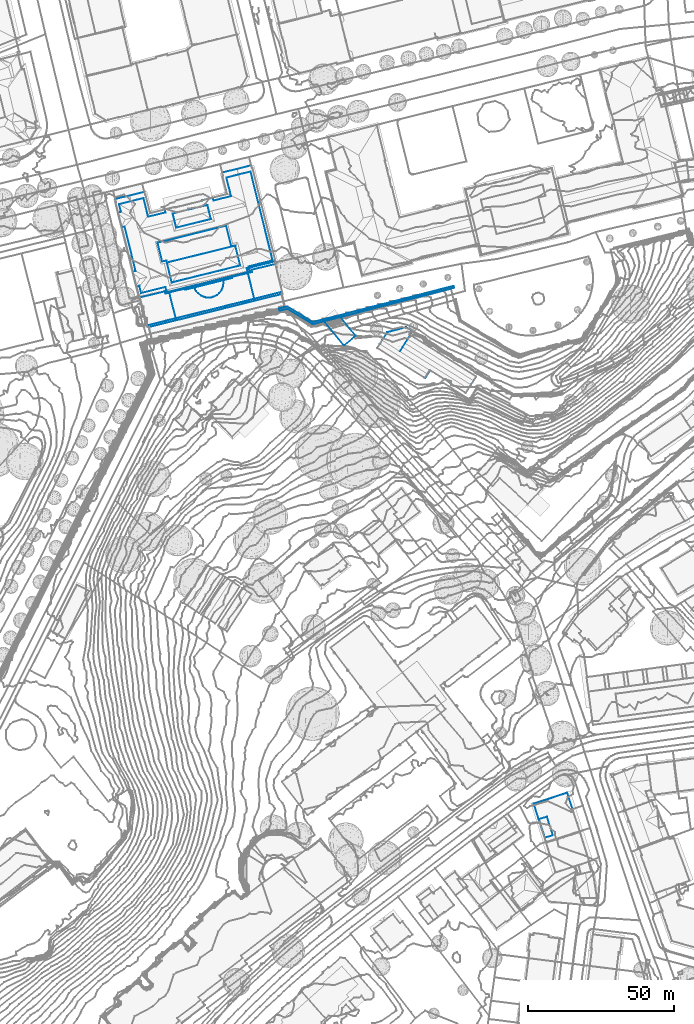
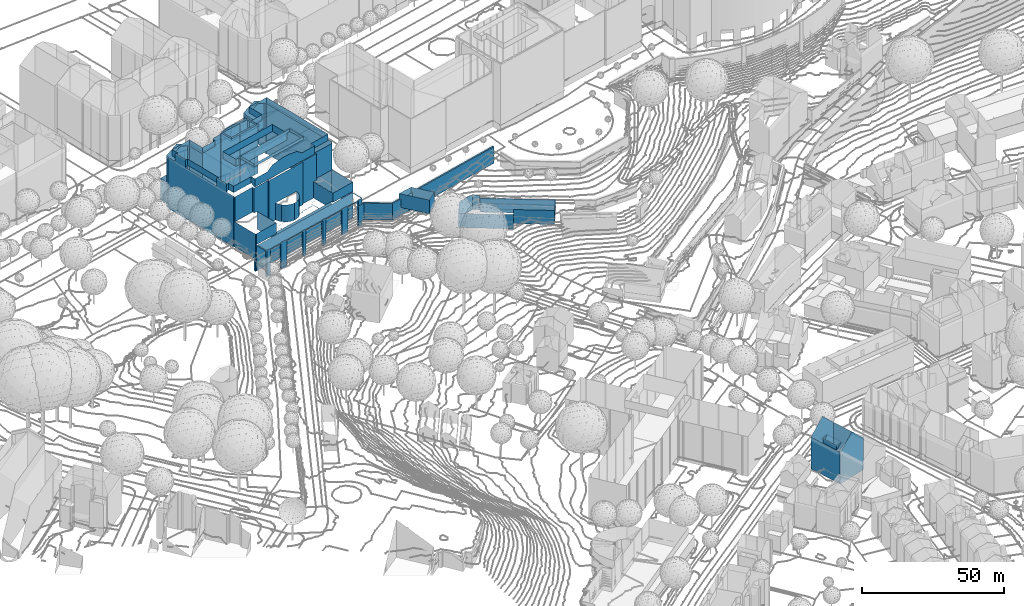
# Not in any storey, part 46 of 477: 5 walls.
"""IFC4 building model written with IfcOpenShell, lengths in metres."""

from ifc_helpers import new_model, si_unit, frame, origin_with_axes, place, context, subcontext, project, spatial, polygons, element, save


model = new_model("IFC4")

# Units and contexts
model_context = context("Model", 3, precision=1e-05, world=origin_with_axes())
body_context = subcontext(model_context, "Body", "Model", "MODEL_VIEW")
ifc_project = project(units=[si_unit("AREAUNIT", "SQUARE_METRE"), si_unit("LENGTHUNIT", "METRE")], contexts=[model_context])

# Sites, building
site_1_placement = place(None, origin_with_axes())
site_1 = spatial("IfcSite", under=ifc_project, at=site_1_placement, Name="Topoexport Site")
site_2_placement = place(site_1_placement, origin_with_axes())
site_2 = spatial("IfcSite", under=site_1, at=site_2_placement, Name="TPX_BUILDINGS")
building_1_placement = place(site_2_placement, frame((211.8297320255, 101.9383160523, 526.7541), z_axis=(0.0, 0.0, 1.0), x_axis=(1.0, 0.0, 0.0)))
building_1 = spatial("IfcBuilding", under=site_2, at=building_1_placement, Name="Building 18", CompositionType="ELEMENT")

# Wall
wall_1_placement = place(None, frame((211.8297320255, 101.9383160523, 526.7541), z_axis=(0.0, 0.0, 1.0), x_axis=(1.0, 0.0, 0.0)))
element("IfcWall", 1, at=wall_1_placement, inside=building_1, Name="Wall 14", context=body_context, shape_type="Tessellation", body=[
    polygons([(205.7030000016, 230.2597999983, 6.3935), (205.8740000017, 229.5947000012, 13.5498), (205.7030000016, 230.2597999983, 13.5498), (169.6170000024, 220.9891999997, 6.3936), (169.6170000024, 220.9891999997, 13.5499), (157.4409999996, 217.8623000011, 6.3936), (157.4409999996, 217.8623000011, 13.5499), (148.6390000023, 223.2098999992, 6.3936), (148.6390000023, 223.2098999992, 13.5499), (148.7010000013, 222.3691000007, 6.3936), (146.1469999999, 221.753899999, 13.5499), (148.7010000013, 222.3691000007, 13.5499), (157.3320000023, 217.1259999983, 6.3936), (157.3320000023, 217.1259999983, 13.5499), (205.8740000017, 229.5947000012, 6.3935), (145.9510000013, 222.5439000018, 6.3936), (146.1469999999, 221.753899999, 6.3936), (147.700000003, 222.9774999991, 6.3936), (145.9510000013, 222.5439000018, 13.5499), (147.700000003, 222.9774999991, 13.5499)], [[[3, 2, 1]], [[5, 3, 4]], [[7, 5, 6]], [[9, 7, 8]], [[12, 11, 10]], [[14, 12, 13]], [[2, 14, 15]], [[17, 11, 16]], [[8, 18, 9]], [[19, 18, 16]], [[18, 19, 20]], [[2, 15, 1]], [[3, 1, 4]], [[5, 4, 6]], [[7, 6, 8]], [[11, 17, 10]], [[12, 10, 13]], [[14, 13, 15]], [[11, 19, 16]], [[18, 20, 9]]]),
])

# Building
building_2_placement = place(site_2_placement, frame((444.9497320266, 154.9236160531, 498.9646), z_axis=(0.0, 0.0, 1.0), x_axis=(1.0, 0.0, 0.0)))
building_2 = spatial("IfcBuilding", under=site_2, at=building_2_placement, Name="Building 70", CompositionType="ELEMENT")

# Wall
wall_2_placement = place(None, frame((444.9497320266, 154.9236160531, 498.9646), z_axis=(0.0, 0.0, 1.0), x_axis=(1.0, 0.0, 0.0)))
element("IfcWall", 2, at=wall_2_placement, inside=building_2, Name="Wall 0", context=body_context, shape_type="Tessellation", body=[
    polygons([(3.8170000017, -11.6053999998, 15.6915), (1.8170000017, -5.2655999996, 13.7497), (1.8170000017, -5.2655999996, 15.6915), (3.8170000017, -11.6053999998, 0.0), (3.8170000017, -11.6053999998, -0.083), (1.8170000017, -5.2655999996, 0.0), (1.8170000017, -5.2655999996, -0.083), (4.5199999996, -4.4131000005, -0.083), (6.5199999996, -10.753899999, 0.0), (4.5199999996, -4.4131000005, 0.0), (0.0, 0.0, 0.0), (0.0, 0.0, 13.6487), (4.2390000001, -13.3515000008, 0.0), (4.2390000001, -13.3515000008, 13.6667), (11.4510000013, 3.7851999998, 0.0), (15.7390000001, -9.4306000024, 13.6967), (11.4510000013, 3.7851999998, 13.7747), (15.7390000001, -9.4306000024, 0.0), (15.824000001, -9.6992000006, 0.0), (15.824000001, -9.6992000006, 13.6957), (0.4070000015, 0.1338, 13.9397), (0.4070000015, 0.1338, 0.0), (5.813000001, 1.9208999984, 0.0), (11.2199999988, 3.7080000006, 13.9397), (5.813000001, 1.9208999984, 19.4592), (11.2199999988, 3.7080000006, 0.0), (2.0839999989, -5.1816000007, 13.9397), (4.1539999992, -4.5293000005, 16.0445), (6.5199999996, -10.753899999, -0.083), (3.8170000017, -11.6053999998, 13.7497), (6.1539999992, -10.8691000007, 16.0445), (4.0839999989, -11.5214999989, 13.9397), (10.0920000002, -11.5058000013, 19.4192), (15.4829999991, -9.8066000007, 13.9397), (4.6229999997, -13.2303999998, 13.9397), (15.4829999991, -9.8066000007, 0.0), (10.0920000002, -11.5058000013, 0.0), (10.0529999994, -11.5175000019, 19.4592), (4.6229999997, -13.2303999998, 0.0), (10.0529999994, -11.5175000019, 0.0)], [[[3, 2, 1]], [[6, 5, 4]], [[5, 6, 7]], [[10, 9, 8]], [[13, 12, 11]], [[12, 13, 14]], [[17, 16, 15]], [[15, 16, 18]], [[18, 20, 19]], [[20, 18, 16]], [[15, 12, 21]], [[12, 22, 11]], [[23, 22, 12]], [[21, 25, 24]], [[17, 15, 21]], [[26, 23, 12]], [[12, 15, 26]], [[24, 17, 21]], [[10, 8, 7]], [[10, 7, 6]], [[2, 3, 27]], [[27, 3, 28]], [[4, 29, 9]], [[29, 4, 5]], [[32, 31, 30]], [[1, 30, 31]], [[35, 34, 33]], [[13, 20, 34]], [[20, 36, 19]], [[37, 36, 20]], [[33, 38, 35]], [[14, 13, 34]], [[13, 39, 20]], [[37, 20, 40]], [[40, 20, 39]], [[14, 34, 35]], [[30, 1, 2]], [[9, 29, 8]]]),
])

# Building
building_3_placement = place(site_2_placement, frame((300.9637320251, 364.7801160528, 537.8963), z_axis=(0.0, 0.0, 1.0), x_axis=(1.0, 0.0, 0.0)))
building_3 = spatial("IfcBuilding", under=site_2, at=building_3_placement, Name="Building 118", CompositionType="ELEMENT")

# Wall
wall_3_placement = place(None, frame((300.9637320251, 364.7801160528, 537.8963), z_axis=(0.0, 0.0, 1.0), x_axis=(1.0, 0.0, 0.0)))
element("IfcWall", 3, at=wall_3_placement, inside=building_3, Name="Wall 0", context=body_context, shape_type="Tessellation", body=[
    polygons([(58.8509999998, -40.4404000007, -6.4715), (58.0329999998, -40.7666000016, 4.9125), (58.8509999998, -40.4404000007, 4.9125), (57.6660000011, -35.4618999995, 4.4505), (58.7060000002, -39.8291000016, 4.4505), (57.6660000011, -35.4618999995, 4.9125), (58.7060000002, -39.8291000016, -6.4715), (58.0490000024, -35.3662, 4.4505), (58.0490000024, -35.3662, 4.9125), (21.4079999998, -43.6601999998, 1.8858), (48.307, -36.9941999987, 4.9125), (21.4079999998, -43.6601999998, 4.9125), (56.9960000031, -41.0205000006, 4.4505), (52.1220000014, -42.2118999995, 4.4505), (49.2690000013, -42.9101999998, 4.4505), (58.0329999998, -40.7666000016, -6.4715), (41.501000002, -44.8115000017, 4.4505), (40.131000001, -45.1464999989, 4.4505), (40.131000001, -45.1464999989, -6.4714), (52.1220000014, -42.2118999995, -6.4715), (32.188000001, -47.0899000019, 4.4505), (56.9960000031, -41.0205000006, -6.4715), (41.501000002, -44.8115000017, -6.4714), (49.2690000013, -42.9101999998, -6.4715), (22.9970000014, -49.3379000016, 4.4505), (13.4780000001, -51.6669999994, 4.9125), (30.7829999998, -47.433600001, 4.4505), (32.188000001, -47.0899000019, -6.4714), (15.3530000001, -51.2080000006, 4.4505), (20.2660000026, -50.0069000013, 4.4505), (13.4780000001, -51.6669999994, -6.4714), (20.2660000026, -50.0067999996, -6.4714), (30.7829999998, -47.433600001, -6.4714), (15.3530000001, -51.2080000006, -6.4714), (22.9970000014, -49.3379000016, -6.4714), (21.5789999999, -44.3506000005, 4.9125), (12.2490000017, -46.6621000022, 4.9125), (21.5789999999, -44.3506000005, 9.588), (19.2240000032, -34.8456999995, 1.8858), (19.2240000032, -34.8456999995, 9.5881), (37.6650000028, -30.6640999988, -1.2769), (37.7380000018, -31.495099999, -1.1589), (37.6650000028, -30.6640999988, -1.1589), (27.9980000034, -33.6552999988, -1.2769), (27.7990000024, -33.1084000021, -1.1589), (27.9980000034, -33.6552999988, -1.1589), (28.443, -34.4268000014, -1.2769), (28.443, -34.4268000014, -1.1589), (29.0160000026, -35.1084000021, -1.2769), (29.0160000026, -35.1084000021, -1.1589), (30.074000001, -35.9199000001, 1.8858), (29.0160000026, -35.1084000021, 9.1841), (30.074000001, -35.9199000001, 9.1841), (30.881000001, -36.2978999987, -1.2769), (30.074000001, -35.9199000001, -1.1589), (30.881000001, -36.2978999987, -1.1589), (31.7410000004, -36.5274000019, -1.2769), (31.7410000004, -36.5274000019, -1.1589), (32.6290000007, -36.6055000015, -1.2769), (32.6290000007, -36.6055000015, -1.1589), (33.5160000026, -36.5274000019, -1.2769), (33.5160000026, -36.5274000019, -1.1589), (34.376000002, -36.2978999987, -1.2769), (34.376000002, -36.2978999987, -1.1589), (35.5590000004, -35.6816000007, -1.2769), (35.5590000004, -35.6816000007, -1.1589), (36.2420000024, -35.1084000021, -1.2769), (36.2420000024, -35.1084000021, -1.1589), (37.0540000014, -34.0507999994, 1.8858), (36.2420000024, -35.1084000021, 9.1841), (37.0540000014, -34.0507999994, 9.1841), (37.4299999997, -33.2432000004, -1.2769), (37.0540000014, -34.0507999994, -1.1589), (37.4299999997, -33.2432000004, -1.1589), (37.6600000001, -32.3828000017, -1.2769), (37.6600000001, -32.3828000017, -1.1589), (37.7380000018, -31.495099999, -1.2769), (37.6650000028, -30.6640999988, 1.8858), (37.7380000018, -31.495099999, 9.1841), (37.6650000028, -30.6640999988, 9.1841), (27.9980000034, -33.6552999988, 1.8858), (27.7990000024, -33.1084000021, 9.1841), (27.9980000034, -33.6552999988, 9.1841), (28.443, -34.4268000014, 1.8858), (28.443, -34.4268000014, 9.1841), (29.0160000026, -35.1084000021, 1.8858), (30.074000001, -35.9199000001, -1.2769), (30.881000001, -36.2978999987, 1.8858), (30.881000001, -36.2978999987, 9.1841), (31.7410000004, -36.5274000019, 1.8858), (31.7410000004, -36.5274000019, 9.1841), (32.6290000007, -36.6055000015, 1.8858), (32.6290000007, -36.6055000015, 9.1841), (33.5160000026, -36.5274000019, 1.8858), (33.5160000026, -36.5274000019, 9.1841), (34.376000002, -36.2978999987, 1.8858), (34.376000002, -36.2978999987, 9.1841), (35.5590000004, -35.6816000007, 1.8858), (35.5590000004, -35.6816000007, 9.1841), (36.2420000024, -35.1084000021, 1.8858), (37.0540000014, -34.0507999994, -1.2769), (37.4299999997, -33.2432000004, 1.8858), (37.4299999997, -33.2432000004, 9.1841), (37.6600000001, -32.3828000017, 1.8858), (37.6600000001, -32.3828000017, 9.1841), (37.7380000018, -31.495099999, 1.8858), (19.2240000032, -34.8456999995, -1.2229), (21.4079999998, -43.6601999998, -1.1589), (19.2240000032, -34.8456999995, -1.1589), (0.7870000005, -3.8740000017, 15.0906), (0.9510000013, -3.8330000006, 20.687), (0.7870000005, -3.8740000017, 20.5981), (0.7870000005, -3.8740000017, -1.3418), (0.9510000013, -3.8330000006, -1.3418), (10.9240000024, -1.3925999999, 20.76), (10.9240000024, -1.3925999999, -1.3419), (11.0780000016, -1.3526000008, 9.6301), (37.4010000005, 5.1552999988, 9.6121), (37.5710000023, 5.1942999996, 12.4598), (37.4010000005, 5.1552000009, 20.654), (37.5710000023, 5.1942999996, -1.3419), (47.6920000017, 7.7285000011, 20.687), (47.5240000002, 7.6875, 20.775), (47.5240000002, 7.6873999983, -1.3419), (47.6921000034, 7.7285000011, 15.1575), (47.6920000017, 7.7285000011, 9.6281), (47.6920000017, 7.7285000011, -1.3419), (47.6920000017, 7.7285000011, 4.0996), (55.6980000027, -24.5331999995, 20.588), (55.6980000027, -24.5331999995, 15.1045), (55.4079999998, -24.6026000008, 20.589), (55.6980000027, -24.5331999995, -1.3419), (55.6980000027, -24.5331999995, 9.622), (55.4079999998, -24.6026000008, -1.3419), (8.814000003, -36.1044999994, 20.616), (9.0480000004, -36.0498000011, 20.614), (9.0480000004, -36.0459000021, 9.5881), (8.814000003, -36.1044999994, -1.3419), (9.0480000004, -36.0459000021, -1.2229), (9.0480000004, -36.0498000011, -1.3419), (55.5190000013, -25.0557000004, 8.9001), (47.3420000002, -27.0811000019, 8.9001), (55.5190000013, -25.0557000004, 20.327), (47.5280000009, -27.8320000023, 20.327), (47.3420000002, -27.0811000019, 20.327), (45.7240000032, -26.5703000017, -1.4109), (55.3100000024, -24.2030999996, -1.3419), (45.7240000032, -26.5703000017, -1.3419), (36.6130000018, 9.0566000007, 0.7599), (46.5520000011, 11.5449000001, 9.4711), (36.6130000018, 9.0566000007, 9.4711), (34.0950000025, -2.371100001, 20.833), (34.3390000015, -3.3535000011, 21.4279), (34.0950000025, -2.371100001, 23.8777), (17.9100000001, -7.4237999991, 21.428), (17.6640000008, -6.432599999, 23.8777), (17.9100000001, -7.4237999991, 23.8777), (11.9610000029, -8.8984999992, 21.429), (11.9610000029, -8.8984000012, 23.8777), (0.0, 0.0, 0.0), (9.9670000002, 2.4765000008, 9.4711), (0.0, 0.0, 9.4711), (48.307, -36.9941999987, -1.159), (21.4079999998, -43.6601999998, -1.2229), (11.568, -46.0986000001, -1.2229), (11.568, -46.0986000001, -6.4714), (48.307, -36.9941999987, -1.4109), (57.8670000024, -34.625, -6.4714), (57.8670000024, -34.625, -1.4109), (17.6770000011, -34.4316999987, -1.3419), (9.1720000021, -36.5390999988, -1.2229), (17.6770000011, -34.4316999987, -1.2229), (17.6770000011, -34.4316999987, 9.5881), (9.1720000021, -36.5390999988, 9.5881), (17.6770000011, -34.4316999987, 20.327), (17.8630000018, -35.182599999, -1.3419), (17.8630000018, -35.182599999, -1.2229), (17.8630000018, -35.182599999, 9.5881), (17.8630000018, -35.182599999, 20.327), (24.5450000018, -33.5263999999, 1.8858), (24.5450000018, -33.5263999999, 20.327), (24.5450000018, -33.5263999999, -1.1589), (24.5450000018, -33.5263999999, -1.3419), (24.6359999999, -33.8925999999, 1.8858), (24.6359999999, -33.8925999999, 20.327), (24.6359999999, -33.8925999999, -1.3419), (24.6359999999, -33.8925999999, -1.1589), (40.7200000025, -29.9072000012, -1.1589), (40.7200000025, -29.9072000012, -1.3419), (27.7990000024, -33.1084000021, -1.2769), (40.7200000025, -29.9072000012, 1.8858), (40.7200000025, -29.9072000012, 20.327), (27.7990000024, -33.1084000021, 1.8858), (40.6290000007, -29.5410000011, 1.8858), (40.6290000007, -29.5410000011, 20.327), (40.6290000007, -29.5410000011, -1.3419), (40.6290000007, -29.5410000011, -1.1589), (47.5280000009, -27.8320000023, 8.9001), (46.1230000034, -28.1807000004, 8.9001), (46.1230000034, -28.1807000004, 1.8858), (46.1230000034, -28.1807000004, -1.3419), (46.1230000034, -28.1807000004, -1.1589), (58.0370000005, -35.317400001, 4.9125), (48.4780000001, -37.6865000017, 8.9001), (58.0370000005, -35.317400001, 8.9001), (48.4780000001, -37.6865000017, 4.9125), (48.307, -36.9941999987, 1.8858), (12.2380000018, -46.6172000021, -6.4714), (11.7280000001, -46.7373000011, 9.588), (12.2380000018, -46.6172000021, 9.588), (13.3270000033, -51.072300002, 4.4505), (12.2490000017, -46.6631000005, 4.4505), (13.3320000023, -51.0713, -6.4714), (12.2490000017, -46.6621000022, 9.588), (12.2490000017, -46.6631000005, -6.4714), (8.1330000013, -33.3682000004, 20.617), (6.7240000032, -27.7089999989, 20.613), (7.9890000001, -32.7899999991, 20.616), (2.943, -12.5283000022, 20.603), (1.6770000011, -7.4483000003, 20.6001), (5.6190000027, -1.6376999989, -1.3418), (0.7080000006, -2.8544999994, 0.0), (0.7080000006, -2.8544999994, -1.3418), (5.6190000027, -1.6376999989, 0.0), (10.6750000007, -0.3858000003, -1.3418), (10.6750000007, -0.3858000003, 0.0), (11.0780000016, -1.3526000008, -1.3419), (12.5890000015, -7.4287, -1.3419), (12.6469999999, -7.6621000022, -1.3419), (12.5890000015, -7.4287, 20.678), (11.0780000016, -1.3526000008, 20.68), (12.6469999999, -7.6621000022, 20.82), (38.8990000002, -0.870099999, 20.656), (38.9700000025, -1.1581999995, 20.83), (38.9700000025, -1.1581999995, -1.3419), (38.8990000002, -0.870099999, -1.3419), (37.4010000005, 5.1552999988, -1.3419), (21.2770000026, -5.5459000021, 24.9056), (21.2770000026, -5.5459000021, -1.3419), (21.318, -5.7001999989, -1.3419), (21.318, -5.7001999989, 24.9086), (0.7080000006, -2.8544999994, 9.4711), (5.6190000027, -1.6376999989, 23.3528), (0.7080000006, -2.8544999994, 20.686), (10.6750000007, -0.3858000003, 20.759), (5.6190000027, -1.6376999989, 9.4711), (10.6750000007, -0.3858000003, 9.4711), (42.375, 7.4697000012, 9.4711), (37.318, 6.2168000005, 20.741), (37.318, 6.2168000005, 9.4711), (47.2730000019, 8.683600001, 9.4711), (47.2730000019, 8.683600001, 20.778), (42.375, 7.4697000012, 23.3528), (46.5520000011, 11.5449000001, 0.7599), (47.2730000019, 8.683600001, 0.7599), (47.2730000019, 8.683600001, -1.3419), (55.6579999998, -24.371100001, 20.681), (37.5710000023, 5.1942999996, 20.741), (37.318, 6.2168000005, 0.7599), (37.318, 6.2168000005, -1.3419), (42.375, 7.4697000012, -1.3419), (42.375, 7.4697000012, 0.7599), (30.4520000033, -3.2774000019, 24.3967), (33.7430000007, -2.4589999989, 24.3917), (30.3568000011, -3.3018000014, -1.3419), (30.3570000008, -3.3018000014, 24.4837), (30.3940000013, -3.4512000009, -1.3419), (30.3740000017, -3.371100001, 24.4847), (30.3940000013, -3.4512000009, 24.5826), (17.6640000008, -6.432599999, 20.827), (20.7160000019, -5.6845999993, 24.3887), (18.0100000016, -6.3476999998, 24.3817), (24.2210000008, -4.9814999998, 25.8795), (21.7900000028, -5.5830000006, 25.3436), (25.626000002, -4.6338, 25.9505), (29.4630000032, -3.682599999, 25.3436), (27.0300000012, -4.2851999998, 25.8795), (30.2870000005, -3.4785000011, 24.5836), (9.9670000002, 2.4765000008, 0.0), (55.3100000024, -24.2030999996, -1.4109), (58.0370000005, -35.316399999, -6.4714), (58.0370000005, -35.316399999, 4.4505), (11.7280000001, -46.7373000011, -6.4714), (9.1710000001, -36.5390999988, -1.3419), (9.1710000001, -36.5390999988, 20.327), (32.2520000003, -4.8564999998, 26.4105), (29.2829999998, -5.5927999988, 27.1324), (24.444000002, -6.7910000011, 27.1334), (20.375, -7.7998000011, 26.4105), (20.375, -7.7998000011, 27.1334), (32.2520000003, -4.8564999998, 27.1324), (33.449000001, -9.6865000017, 26.4105), (30.4790000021, -10.4228999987, 27.1394), (33.449000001, -9.6865000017, 27.1394), (21.5710000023, -12.628899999, 26.4105), (21.5710000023, -12.628899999, 27.1394), (33.4350000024, -9.6317999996, 27.1724), (18.3770000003, -24.5976999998, 26.4105), (18.3850000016, -24.6317999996, 27.5583), (20.0600000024, -31.3905999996, 27.6293), (20.0600000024, -31.3905999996, 26.4104), (18.3770000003, -24.5976999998, 27.5383), (2.8500000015, -12.1533000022, 24.1817), (2.943, -12.5283000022, 23.8777), (1.7910000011, -7.9052999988, 24.1767), (1.6770000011, -7.4483000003, 23.8777), (7.8890000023, -32.3887000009, 24.2037), (7.9890000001, -32.7899999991, 23.8777), (6.7240000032, -27.7089999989, 23.8777), (6.8470000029, -28.2021999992, 24.1997), (32.268000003, -4.9228999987, 27.1734), (21.557, -12.5742000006, 27.1734), (20.3920000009, -7.8662, 27.1734), (41.8160000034, -18.8251999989, 27.5583), (41.8080000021, -18.7919999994, 26.4104), (43.4910000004, -25.5850000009, 27.6293), (43.4910000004, -25.5850000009, 26.4104), (41.8080000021, -18.7919999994, 27.5383), (43.432, -25.6006000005, 27.6663), (20.120000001, -31.375, 27.6663), (18.2520000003, -34.2881000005, 20.327), (18.3710000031, -34.7675999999, 23.8777), (18.3710000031, -34.7675999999, 20.327), (17.9210000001, -32.9501999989, 21.112), (17.9210000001, -32.9501999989, 23.8777), (9.5610000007, -35.0214999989, 21.112), (18.2440000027, -23.875, 23.3527), (18.4200000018, -24.5859999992, 26.4105), (18.2440000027, -23.875, 26.4105), (40.3460000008, -1.8652999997, 21.4289), (34.3390000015, -3.3535000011, 23.8777), (38.7640000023, 4.5194999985, 23.8777), (40.3460000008, -1.8652999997, 23.8777), (40.2690000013, -1.5547000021, 21.24), (38.7640000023, 4.5194999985, 21.24), (42.8550000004, 5.5331999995, 23.3528), (47.0410000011, 6.5702999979, 21.152), (47.0410000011, 6.5702999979, 23.8777), (54.5620000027, -23.7813000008, 21.1509), (54.5830000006, -23.8652999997, 23.8777), (54.5700000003, -23.8145000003, 21.1399), (54.5830000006, -23.8652999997, 21.1119), (46.3060000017, -25.9160000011, 23.8777), (46.756000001, -27.7334000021, 23.8777), (46.3060000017, -25.9160000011, 21.1119), (46.756000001, -27.7334000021, 20.327), (46.6380000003, -27.2558999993, 20.327), (2.6680000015, -7.2021999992, 21.138), (2.0190000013, -4.5850000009, 23.8777), (2.6680000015, -7.2021999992, 23.8777), (7.6900000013, -27.4706999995, 21.138), (3.9270000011, -12.2842000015, 23.8777), (7.6900000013, -27.4706999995, 23.8777), (9.5549999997, -34.996100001, 21.126), (9.5609000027, -35.0214999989, 23.8777), (9.5480000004, -34.9688000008, 21.136), (8.949000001, -32.5527000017, 21.138), (8.949000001, -32.5527000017, 23.8777), (10.3790000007, -2.5146999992, 21.157), (10.3790000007, -2.5146999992, 23.8777), (11.8500000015, -8.4512000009, 21.157), (6.0990000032, -3.5742000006, 23.3528), (2.0190000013, -4.5850000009, 21.138), (3.9270000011, -12.2842000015, 21.138), (16.7770000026, -24.2382999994, 23.3527), (16.7770000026, -24.2382999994, 26.4105), (15.1810000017, -17.8007999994, 23.3528), (15.1810000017, -17.8007999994, 26.4105), (38.6730000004, -11.9785000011, 23.3527), (38.6730000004, -11.9785000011, 26.4105), (40.4450000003, -19.1308999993, 23.3527), (40.4450000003, -19.1308999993, 26.4104), (24.2350000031, -23.1464999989, 27.5383), (18.4200000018, -24.5859999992, 23.3527), (30.0420000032, -21.7070000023, 27.5383), (38.3370000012, -29.8192999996, 25.6685), (40.7480000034, -29.2226999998, 23.8777), (26.6950000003, -32.7041000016, 25.6685), (34.6469999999, -30.7344000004, 26.3244), (30.3859999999, -31.7901000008, 26.3244), (24.2840000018, -33.3027000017, 23.8777), (32.5160000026, -31.2626999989, 26.4104), (56.8170000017, -40.2978999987, 4.4505), (56.8170000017, -40.2978999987, -6.4715), (15.2039999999, -50.6074000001, 4.4505), (15.2039999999, -50.6074000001, -6.4714), (20.1130000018, -49.3916000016, -6.4714), (22.8430000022, -48.7158000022, -6.4714), (20.1130000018, -49.3916000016, 4.4505), (22.8430000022, -48.7158000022, 4.4505), (30.6230000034, -46.7871000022, -6.4714), (32.0270000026, -46.4395000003, -6.4714), (30.6230000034, -46.7871000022, 4.4505), (32.0270000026, -46.4395000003, 4.4505), (39.9640000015, -44.4736000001, -6.4714), (41.3330000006, -44.1338, -6.4714), (39.9640000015, -44.4736000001, 4.4505), (41.3330000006, -44.1338, 4.4505), (49.0950000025, -42.2100000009, -6.4714), (51.9470000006, -41.503899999, -6.4715), (49.0950000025, -42.2100000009, 4.4505), (51.9470000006, -41.503899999, 4.4505), (24.9180000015, -11.8007999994, 27.1394)], [[[3, 2, 1]], [[6, 5, 4]], [[5, 6, 3]], [[5, 1, 7]], [[1, 5, 3]], [[9, 6, 8]], [[12, 11, 10]], [[2, 14, 13]], [[14, 2, 15]], [[2, 13, 16]], [[2, 17, 15]], [[17, 2, 18]], [[17, 18, 19]], [[20, 14, 15]], [[2, 21, 18]], [[22, 16, 13]], [[19, 23, 17]], [[20, 15, 24]], [[27, 26, 25]], [[26, 27, 21]], [[21, 27, 28]], [[30, 26, 29]], [[26, 30, 25]], [[29, 26, 31]], [[25, 30, 32]], [[21, 2, 26]], [[33, 28, 27]], [[31, 34, 29]], [[35, 25, 32]], [[38, 37, 36]], [[40, 12, 39]], [[12, 40, 38]], [[39, 12, 10]], [[36, 12, 38]], [[43, 42, 41]], [[46, 45, 44]], [[48, 46, 47]], [[50, 48, 49]], [[53, 52, 51]], [[56, 55, 54]], [[58, 56, 57]], [[60, 58, 59]], [[62, 60, 61]], [[64, 62, 63]], [[66, 64, 65]], [[68, 66, 67]], [[71, 70, 69]], [[74, 73, 72]], [[76, 74, 75]], [[42, 76, 77]], [[80, 79, 78]], [[83, 82, 81]], [[85, 83, 84]], [[52, 85, 86]], [[55, 50, 87]], [[89, 53, 88]], [[91, 89, 90]], [[93, 91, 92]], [[95, 93, 94]], [[97, 95, 96]], [[99, 97, 98]], [[70, 99, 100]], [[73, 68, 101]], [[103, 71, 102]], [[105, 103, 104]], [[79, 105, 106]], [[109, 108, 107]], [[112, 111, 110]], [[111, 114, 113]], [[117, 116, 115]], [[120, 119, 118]], [[121, 118, 119]], [[124, 123, 122]], [[125, 124, 122]], [[126, 124, 125]], [[128, 127, 124]], [[131, 130, 129]], [[133, 131, 132]], [[132, 131, 134]], [[137, 136, 135]], [[139, 137, 138]], [[139, 138, 140]], [[138, 137, 135]], [[143, 142, 141]], [[145, 144, 142]], [[148, 147, 146]], [[151, 150, 149]], [[154, 153, 152]], [[157, 156, 155]], [[159, 157, 158]], [[162, 161, 160]], [[164, 108, 163]], [[166, 165, 164]], [[164, 167, 166]], [[163, 167, 164]], [[169, 168, 167]], [[167, 168, 166]], [[172, 171, 170]], [[175, 174, 173]], [[177, 172, 176]], [[179, 175, 178]], [[181, 40, 180]], [[40, 181, 179]], [[180, 40, 39]], [[178, 40, 179]], [[183, 182, 107]], [[107, 182, 109]], [[107, 177, 176]], [[107, 176, 183]], [[185, 181, 184]], [[187, 182, 186]], [[188, 43, 41]], [[190, 189, 41]], [[41, 189, 188]], [[45, 187, 190]], [[186, 190, 187]], [[192, 80, 191]], [[80, 192, 82]], [[78, 191, 80]], [[82, 185, 184]], [[185, 82, 192]], [[184, 193, 82]], [[195, 192, 194]], [[197, 188, 196]], [[144, 199, 198]], [[199, 144, 195]], [[199, 194, 200]], [[194, 199, 195]], [[202, 197, 201]], [[205, 204, 203]], [[11, 206, 204]], [[11, 199, 200]], [[199, 11, 204]], [[11, 200, 207]], [[163, 201, 167]], [[201, 148, 146]], [[201, 146, 167]], [[210, 209, 208]], [[26, 211, 31]], [[211, 37, 212]], [[211, 213, 31]], [[214, 210, 37]], [[212, 208, 215]], [[37, 210, 212]], [[212, 210, 208]], [[135, 216, 138]], [[138, 218, 217]], [[218, 138, 216]], [[138, 217, 219]], [[110, 219, 220]], [[110, 220, 112]], [[113, 219, 110]], [[219, 113, 138]], [[223, 222, 221]], [[221, 222, 224]], [[224, 226, 225]], [[224, 225, 221]], [[228, 227, 117]], [[117, 229, 228]], [[231, 230, 229]], [[231, 229, 117]], [[229, 230, 232]], [[233, 120, 118]], [[233, 235, 234]], [[118, 237, 236]], [[236, 235, 118]], [[118, 235, 233]], [[240, 239, 238]], [[238, 241, 240]], [[244, 243, 242]], [[242, 243, 245]], [[245, 247, 246]], [[245, 246, 242]], [[250, 249, 248]], [[248, 249, 251]], [[251, 253, 252]], [[253, 251, 249]], [[251, 252, 123]], [[251, 254, 150]], [[254, 251, 255]], [[251, 124, 255]], [[124, 251, 123]], [[255, 124, 256]], [[125, 122, 257]], [[128, 132, 127]], [[133, 128, 126]], [[125, 130, 126]], [[257, 129, 130]], [[130, 133, 126]], [[132, 128, 133]], [[125, 257, 130]], [[119, 258, 249]], [[121, 119, 250]], [[249, 250, 119]], [[149, 259, 151]], [[260, 121, 259]], [[259, 121, 250]], [[260, 259, 261]], [[261, 259, 262]], [[262, 255, 256]], [[262, 256, 261]], [[264, 154, 263]], [[266, 263, 265]], [[154, 152, 263]], [[152, 234, 235]], [[265, 263, 235]], [[235, 263, 152]], [[269, 268, 267]], [[266, 265, 267]], [[266, 267, 268]], [[232, 270, 229]], [[239, 229, 270]], [[270, 238, 239]], [[156, 272, 271]], [[271, 238, 270]], [[156, 271, 270]], [[240, 273, 267]], [[240, 241, 274]], [[240, 274, 273]], [[273, 275, 267]], [[277, 276, 267]], [[267, 278, 269]], [[278, 267, 276]], [[277, 267, 275]], [[242, 114, 111]], [[242, 111, 244]], [[242, 162, 222]], [[160, 222, 162]], [[223, 114, 222]], [[222, 114, 242]], [[161, 247, 226]], [[226, 279, 161]], [[116, 225, 226]], [[226, 247, 116]], [[245, 115, 116]], [[245, 116, 247]], [[134, 131, 141]], [[134, 280, 147]], [[280, 134, 169]], [[141, 205, 203]], [[141, 131, 143]], [[203, 9, 8]], [[141, 203, 169]], [[168, 169, 281]], [[281, 169, 282]], [[8, 282, 203]], [[169, 203, 282]], [[169, 134, 141]], [[283, 209, 165]], [[165, 209, 171]], [[283, 165, 166]], [[284, 171, 140]], [[209, 174, 171]], [[137, 174, 285]], [[137, 285, 136]], [[139, 140, 171]], [[139, 174, 137]], [[139, 171, 174]], [[288, 287, 286]], [[290, 288, 289]], [[286, 289, 288]], [[287, 291, 286]], [[294, 293, 292]], [[296, 295, 292]], [[297, 294, 292]], [[300, 299, 298]], [[301, 300, 298]], [[299, 302, 298]], [[219, 304, 303]], [[219, 303, 305]], [[220, 305, 306]], [[305, 220, 219]], [[308, 307, 218]], [[218, 307, 217]], [[310, 309, 217]], [[310, 217, 307]], [[286, 291, 311]], [[297, 292, 311]], [[311, 292, 286]], [[295, 296, 312]], [[312, 313, 295]], [[289, 313, 290]], [[313, 289, 295]], [[316, 315, 314]], [[317, 315, 316]], [[314, 315, 318]], [[316, 319, 317]], [[301, 317, 320]], [[317, 319, 320]], [[301, 320, 300]], [[323, 322, 321]], [[322, 324, 321]], [[324, 322, 325]], [[325, 326, 324]], [[329, 328, 327]], [[331, 330, 153]], [[333, 332, 330]], [[330, 335, 334]], [[335, 332, 336]], [[336, 338, 337]], [[338, 336, 332]], [[338, 339, 337]], [[339, 338, 340]], [[340, 341, 339]], [[342, 341, 340]], [[340, 343, 342]], [[345, 343, 344]], [[347, 344, 346]], [[344, 347, 345]], [[306, 348, 220]], [[350, 349, 348]], [[353, 352, 351]], [[355, 354, 326]], [[354, 355, 356]], [[356, 358, 357]], [[358, 356, 355]], [[360, 158, 359]], [[359, 158, 361]], [[363, 349, 362]], [[362, 360, 359]], [[360, 362, 349]], [[352, 304, 364]], [[358, 308, 357]], [[309, 351, 217]], [[366, 329, 365]], [[368, 366, 367]], [[370, 368, 369]], [[372, 370, 371]], [[372, 302, 373]], [[302, 372, 328]], [[328, 298, 302]], [[374, 328, 372]], [[318, 315, 372]], [[318, 372, 375]], [[371, 374, 372]], [[378, 377, 376]], [[344, 377, 346]], [[346, 377, 323]], [[380, 376, 379]], [[380, 378, 376]], [[381, 322, 323]], [[382, 380, 379]], [[384, 383, 7]], [[215, 282, 212]], [[211, 385, 213]], [[386, 385, 34]], [[32, 30, 387]], [[387, 389, 388]], [[388, 390, 35]], [[33, 27, 391]], [[391, 393, 392]], [[392, 394, 28]], [[19, 18, 395]], [[395, 397, 396]], [[396, 398, 23]], [[24, 15, 399]], [[399, 401, 400]], [[400, 402, 20]], [[22, 13, 384]], [[2, 16, 1]], [[6, 4, 8]], [[11, 207, 10]], [[214, 37, 38]], [[42, 77, 41]], [[45, 190, 44]], [[46, 44, 47]], [[48, 47, 49]], [[52, 86, 51]], [[55, 87, 54]], [[56, 54, 57]], [[58, 57, 59]], [[60, 59, 61]], [[62, 61, 63]], [[64, 63, 65]], [[66, 65, 67]], [[70, 100, 69]], [[73, 101, 72]], [[74, 72, 75]], [[76, 75, 77]], [[79, 106, 78]], [[82, 193, 81]], [[83, 81, 84]], [[85, 84, 86]], [[50, 49, 87]], [[53, 51, 88]], [[89, 88, 90]], [[91, 90, 92]], [[93, 92, 94]], [[95, 94, 96]], [[97, 96, 98]], [[99, 98, 100]], [[68, 67, 101]], [[71, 69, 102]], [[103, 102, 104]], [[105, 104, 106]], [[108, 164, 107]], [[113, 110, 111]], [[117, 227, 116]], [[117, 115, 231]], [[237, 118, 121]], [[258, 119, 120]], [[126, 128, 124]], [[133, 130, 131]], [[145, 142, 143]], [[144, 198, 142]], [[147, 280, 146]], [[150, 254, 149]], [[331, 153, 154]], [[156, 270, 155]], [[157, 155, 158]], [[161, 279, 160]], [[171, 284, 170]], [[285, 174, 175]], [[172, 170, 176]], [[175, 173, 178]], [[181, 180, 184]], [[182, 183, 186]], [[186, 189, 190]], [[192, 191, 194]], [[188, 189, 196]], [[197, 196, 201]], [[204, 206, 203]], [[202, 201, 163]], [[209, 283, 208]], [[26, 37, 211]], [[259, 250, 151]], [[293, 403, 292]], [[292, 403, 296]], [[355, 326, 325]], [[328, 374, 327]], [[333, 330, 331]], [[332, 335, 330]], [[343, 345, 342]], [[350, 348, 306]], [[349, 363, 348]], [[352, 364, 351]], [[159, 158, 360]], [[304, 219, 364]], [[308, 218, 357]], [[353, 351, 309]], [[329, 327, 365]], [[366, 365, 367]], [[368, 367, 369]], [[370, 369, 371]], [[375, 372, 373]], [[381, 377, 378]], [[377, 381, 323]], [[383, 5, 7]], [[281, 282, 215]], [[385, 386, 213]], [[385, 29, 34]], [[30, 389, 387]], [[389, 390, 388]], [[390, 25, 35]], [[27, 393, 391]], [[393, 394, 392]], [[394, 21, 28]], [[18, 397, 395]], [[397, 398, 396]], [[398, 17, 23]], [[15, 401, 399]], [[401, 402, 400]], [[402, 14, 20]], [[13, 383, 384]]]),
])

# Building
building_4_placement = place(site_2_placement, frame((372.7347320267, 320.7049160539, 536.4583), z_axis=(0.0, 0.0, 1.0), x_axis=(1.0, 0.0, 0.0)))
building_4 = spatial("IfcBuilding", under=site_2, at=building_4_placement, Name="Building 119", CompositionType="ELEMENT")

# Wall
wall_4_placement = place(None, frame((372.7347320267, 320.7049160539, 536.4583), z_axis=(0.0, 0.0, 1.0), x_axis=(1.0, 0.0, 0.0)))
element("IfcWall", 4, at=wall_4_placement, inside=building_4, Name="Wall 0", context=body_context, shape_type="Tessellation", body=[
    polygons([(5.6700000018, 1.2665999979, 0.0), (11.254999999, -5.577200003, 5.9385), (5.6700000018, 1.2665999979, 5.9385), (0.0, 0.0, 0.0), (0.0, 0.0, 5.9385), (7.2490000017, -8.8623000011, 0.0), (7.2490000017, -8.8623000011, 5.9385), (11.254999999, -5.577200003, 0.0)], [[[3, 2, 1]], [[5, 3, 4]], [[7, 5, 6]], [[2, 7, 8]], [[2, 8, 1]], [[3, 1, 4]], [[5, 4, 6]], [[7, 6, 8]]]),
])

# Building
building_5_placement = place(site_2_placement, frame((391.3277320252, 310.9148160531, 527.1172), z_axis=(0.0, 0.0, 1.0), x_axis=(1.0, 0.0, 0.0)))
building_5 = spatial("IfcBuilding", under=site_2, at=building_5_placement, Name="Building 120", CompositionType="ELEMENT")

# Wall
wall_5_placement = place(None, frame((391.3277320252, 310.9148160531, 527.1172), z_axis=(0.0, 0.0, 1.0), x_axis=(1.0, 0.0, 0.0)))
element("IfcWall", 5, at=wall_5_placement, inside=building_5, Name="Wall 0", context=body_context, shape_type="Tessellation", body=[
    polygons([(30.3090000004, -15.3720000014, 0.0), (18.0890000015, -7.6561999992, 6.0964), (30.3090000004, -15.3720000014, 6.0964), (12.0410000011, 5.6563000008, 0.0), (11.2880000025, 4.4638999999, 6.0964), (12.0410000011, 5.6563000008, 6.0964), (9.9020000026, 7.1435999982, 0.0), (9.9020000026, 7.1435999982, 6.4904), (11.2880000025, 4.4638999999, 0.0), (33.8420000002, -9.7773000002, 6.0964), (16.3900000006, -10.3465999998, 0.0), (0.0, 0.0, 6.0964), (16.3900000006, -10.3465999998, 6.0964), (4.3859999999, 5.6865999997, 0.0), (4.3859999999, 5.6865999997, 6.6644), (3.4290000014, 5.433600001, 6.5614), (3.4290000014, 5.433600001, 0.0), (8.2710000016, 6.7128999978, 6.6644), (8.2710000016, 6.7128999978, 0.0), (8.6830000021, 0.3378999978, 6.0964), (8.6830000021, 0.3378999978, 6.9823), (7.7550000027, -1.1308000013, 6.0964), (9.5300000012, 1.6796999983, 6.0964), (32.9730000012, -11.1543000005, 0.0), (33.8420000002, -9.7773000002, 0.0), (32.0840000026, -12.5615000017, 0.0), (32.0840000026, -12.5615000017, 6.0964), (31.2369999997, -13.9023000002, 0.0), (31.2369999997, -13.9023000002, 6.9823), (32.9730000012, -11.1543000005, 6.9343), (10.4189999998, 3.0869999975, 6.0964), (10.4189999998, 3.0869999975, 6.9343), (18.0890000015, -7.6561999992, 0.0), (17.2910000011, -8.9199000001, 6.9543), (0.9010000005, 1.4267999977, 0.0), (0.9010000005, 1.4267999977, 6.9543), (0.0, 0.0, 0.0), (1.700000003, 2.6915000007, 0.0), (1.700000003, 2.6915000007, 6.0964)], [[[3, 2, 1]], [[6, 5, 4]], [[8, 6, 7]], [[5, 10, 9]], [[13, 12, 11]], [[16, 15, 14]], [[14, 17, 16]], [[15, 18, 14]], [[18, 8, 19]], [[7, 19, 8]], [[18, 19, 14]], [[22, 21, 20]], [[23, 20, 21]], [[25, 10, 24]], [[27, 26, 24]], [[27, 28, 26]], [[27, 24, 10]], [[3, 1, 28]], [[3, 27, 29]], [[28, 27, 3]], [[27, 10, 30]], [[23, 32, 31]], [[5, 31, 32]], [[2, 11, 33]], [[2, 34, 13]], [[2, 13, 11]], [[12, 36, 35]], [[35, 37, 12]], [[36, 38, 35]], [[39, 16, 17]], [[17, 38, 39]], [[39, 38, 36]], [[2, 33, 1]], [[5, 9, 4]], [[6, 4, 7]], [[10, 25, 9]], [[12, 37, 11]]]),
])

save(model, "model.ifc")
